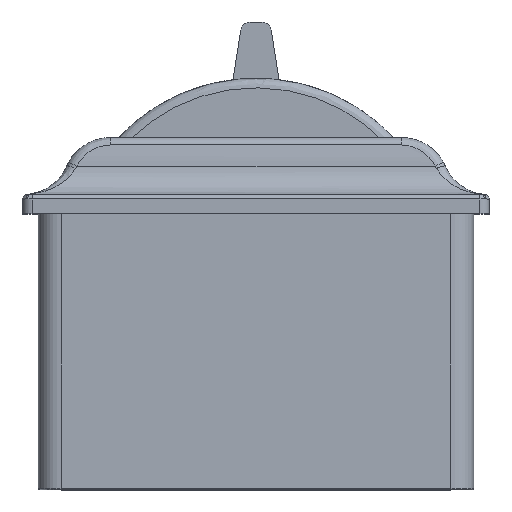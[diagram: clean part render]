
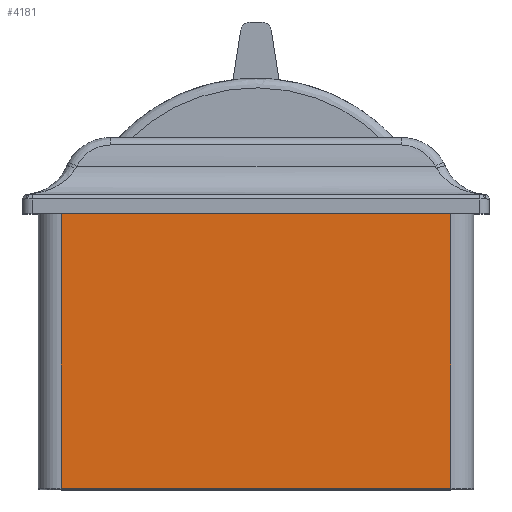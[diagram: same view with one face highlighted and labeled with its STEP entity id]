
A CAD part, top view. The second image highlights one B-rep face of the part: STEP entity #4181.
In plain terms, the highlighted planar face has unit normal (0, 0, 1).
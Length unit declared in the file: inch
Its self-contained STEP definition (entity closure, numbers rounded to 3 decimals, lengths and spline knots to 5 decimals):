
#398 = AXIS2_PLACEMENT_3D ( 'NONE', #6239, #6243, #6244 ) ;
#1984 = LINE ( 'NONE', #2382, #1988 ) ;
#1988 = VECTOR ( 'NONE', #2381, 39.37008 ) ;
#2083 = LINE ( 'NONE', #2796, #2089 ) ;
#2087 = LINE ( 'NONE', #2795, #2093 ) ;
#2088 = LINE ( 'NONE', #2800, #2091 ) ;
#2089 = VECTOR ( 'NONE', #2792, 39.37008 ) ;
#2091 = VECTOR ( 'NONE', #2802, 39.37008 ) ;
#2093 = VECTOR ( 'NONE', #2803, 39.37008 ) ;
#2381 = DIRECTION ( 'NONE',  ( -1., 0., 0. ) ) ;
#2382 = CARTESIAN_POINT ( 'NONE',  ( 0., 0.005, 0.31 ) ) ;
#2517 = CARTESIAN_POINT ( 'NONE',  ( 0.6375, 0.903, 0.31 ) ) ;
#2520 = CARTESIAN_POINT ( 'NONE',  ( -0.6375, 0.903, 0.31 ) ) ;
#2535 = CARTESIAN_POINT ( 'NONE',  ( 0.6375, 0.005, 0.31 ) ) ;
#2537 = CARTESIAN_POINT ( 'NONE',  ( -0.6375, 0.005, 0.31 ) ) ;
#2792 = DIRECTION ( 'NONE',  ( 0., -1., 0. ) ) ;
#2795 = CARTESIAN_POINT ( 'NONE',  ( -0.6375, 0.454, 0.31 ) ) ;
#2796 = CARTESIAN_POINT ( 'NONE',  ( 0.6375, 0.454, 0.31 ) ) ;
#2800 = CARTESIAN_POINT ( 'NONE',  ( 0., 0.903, 0.31 ) ) ;
#2802 = DIRECTION ( 'NONE',  ( -1., 0., 0. ) ) ;
#2803 = DIRECTION ( 'NONE',  ( 0., -1., 0. ) ) ;
#4181 = ADVANCED_FACE ( 'NONE', ( #7721 ), #6241, .F. ) ;
#4466 = EDGE_LOOP ( 'NONE', ( #7479, #7478, #7476, #7474 ) ) ;
#5068 = EDGE_CURVE ( 'NONE', #5183, #5185, #1984, .T. ) ;
#5165 = VERTEX_POINT ( 'NONE', #2517 ) ;
#5168 = VERTEX_POINT ( 'NONE', #2520 ) ;
#5183 = VERTEX_POINT ( 'NONE', #2535 ) ;
#5185 = VERTEX_POINT ( 'NONE', #2537 ) ;
#5409 = EDGE_CURVE ( 'NONE', #5165, #5183, #2083, .T. ) ;
#5410 = EDGE_CURVE ( 'NONE', #5165, #5168, #2088, .T. ) ;
#5411 = EDGE_CURVE ( 'NONE', #5168, #5185, #2087, .T. ) ;
#6239 = CARTESIAN_POINT ( 'NONE',  ( 0.6375, 0.005, 0.31 ) ) ;
#6241 = PLANE ( 'NONE',  #398 ) ;
#6243 = DIRECTION ( 'NONE',  ( 0., 0., -1. ) ) ;
#6244 = DIRECTION ( 'NONE',  ( -1., 0., 0. ) ) ;
#7474 = ORIENTED_EDGE ( 'NONE', *, *, #5409, .F. ) ;
#7476 = ORIENTED_EDGE ( 'NONE', *, *, #5068, .F. ) ;
#7478 = ORIENTED_EDGE ( 'NONE', *, *, #5411, .T. ) ;
#7479 = ORIENTED_EDGE ( 'NONE', *, *, #5410, .T. ) ;
#7721 = FACE_OUTER_BOUND ( 'NONE', #4466, .T. ) ;
